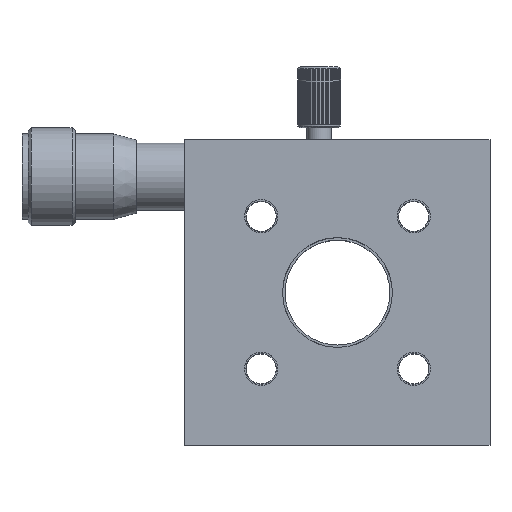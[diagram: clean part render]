
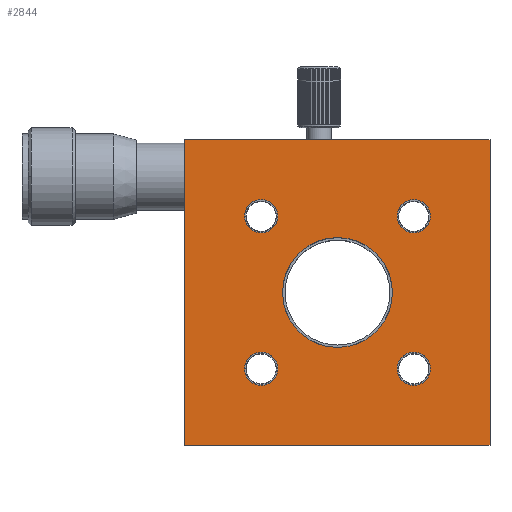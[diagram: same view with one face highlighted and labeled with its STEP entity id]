
A CAD part, top view. The second image highlights one B-rep face of the part: STEP entity #2844.
In plain terms, the highlighted planar face has unit normal (0, 0, 1).
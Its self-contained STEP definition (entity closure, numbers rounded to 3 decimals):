
#669 = VERTEX_POINT ( 'NONE', #6545 ) ;
#678 = EDGE_CURVE ( 'NONE', #737, #733, #6533, .T. ) ;
#726 = VERTEX_POINT ( 'NONE', #6691 ) ;
#729 = VERTEX_POINT ( 'NONE', #6681 ) ;
#731 = EDGE_CURVE ( 'NONE', #732, #729, #6680, .T. ) ;
#732 = VERTEX_POINT ( 'NONE', #6675 ) ;
#733 = VERTEX_POINT ( 'NONE', #6674 ) ;
#735 = EDGE_CURVE ( 'NONE', #736, #726, #6673, .T. ) ;
#736 = VERTEX_POINT ( 'NONE', #6668 ) ;
#737 = VERTEX_POINT ( 'NONE', #6667 ) ;
#738 = EDGE_CURVE ( 'NONE', #739, #669, #6726, .T. ) ;
#739 = VERTEX_POINT ( 'NONE', #6721 ) ;
#914 = EDGE_CURVE ( 'NONE', #915, #916, #7257, .T. ) ;
#915 = VERTEX_POINT ( 'NONE', #7252 ) ;
#916 = VERTEX_POINT ( 'NONE', #7251 ) ;
#2714 = EDGE_CURVE ( 'NONE', #916, #915, #10845, .T. ) ;
#2753 = EDGE_CURVE ( 'NONE', #729, #732, #10911, .T. ) ;
#2760 = EDGE_CURVE ( 'NONE', #733, #737, #10905, .T. ) ;
#2765 = EDGE_CURVE ( 'NONE', #669, #739, #10888, .T. ) ;
#2772 = EDGE_CURVE ( 'NONE', #726, #736, #10945, .T. ) ;
#2793 = VERTEX_POINT ( 'NONE', #10914 ) ;
#2795 = EDGE_CURVE ( 'NONE', #2808, #2793, #10913, .T. ) ;
#2808 = VERTEX_POINT ( 'NONE', #10965 ) ;
#2810 = EDGE_CURVE ( 'NONE', #2817, #2808, #10964, .T. ) ;
#2817 = VERTEX_POINT ( 'NONE', #10956 ) ;
#2819 = EDGE_CURVE ( 'NONE', #2820, #2817, #10955, .T. ) ;
#2820 = VERTEX_POINT ( 'NONE', #10951 ) ;
#2830 = EDGE_LOOP ( 'NONE', ( #2831, #2832 ) ) ;
#2831 = ORIENTED_EDGE ( 'NONE', *, *, #735, .T. ) ;
#2832 = ORIENTED_EDGE ( 'NONE', *, *, #2772, .T. ) ;
#2833 = EDGE_LOOP ( 'NONE', ( #2834, #2835 ) ) ;
#2834 = ORIENTED_EDGE ( 'NONE', *, *, #738, .T. ) ;
#2835 = ORIENTED_EDGE ( 'NONE', *, *, #2765, .T. ) ;
#2836 = EDGE_LOOP ( 'NONE', ( #2837, #2838 ) ) ;
#2837 = ORIENTED_EDGE ( 'NONE', *, *, #2714, .T. ) ;
#2838 = ORIENTED_EDGE ( 'NONE', *, *, #914, .T. ) ;
#2844 = ADVANCED_FACE ( 'NONE', ( #11006, #11005, #11004, #11003, #11002, #11001 ), #11000, .T. ) ;
#2845 = ORIENTED_EDGE ( 'NONE', *, *, #2795, .T. ) ;
#2846 = ORIENTED_EDGE ( 'NONE', *, *, #2859, .T. ) ;
#2847 = ORIENTED_EDGE ( 'NONE', *, *, #2819, .T. ) ;
#2848 = ORIENTED_EDGE ( 'NONE', *, *, #2810, .T. ) ;
#2849 = EDGE_LOOP ( 'NONE', ( #2850, #2851 ) ) ;
#2850 = ORIENTED_EDGE ( 'NONE', *, *, #678, .T. ) ;
#2851 = ORIENTED_EDGE ( 'NONE', *, *, #2760, .T. ) ;
#2852 = EDGE_LOOP ( 'NONE', ( #2853, #2854 ) ) ;
#2853 = ORIENTED_EDGE ( 'NONE', *, *, #731, .T. ) ;
#2854 = ORIENTED_EDGE ( 'NONE', *, *, #2753, .T. ) ;
#2859 = EDGE_CURVE ( 'NONE', #2793, #2820, #10988, .T. ) ;
#2865 = EDGE_LOOP ( 'NONE', ( #2845, #2846, #2847, #2848 ) ) ;
#6529 = DIRECTION ( 'NONE',  ( 1., 0., 0. ) ) ;
#6530 = DIRECTION ( 'NONE',  ( 0., 0., -1. ) ) ;
#6531 = CARTESIAN_POINT ( 'NONE',  ( 37.5, 37.5, 20.5 ) ) ;
#6532 = AXIS2_PLACEMENT_3D ( 'NONE', #6531, #6530, #6529 ) ;
#6533 = CIRCLE ( 'NONE', #6532, 2.73 ) ;
#6545 = CARTESIAN_POINT ( 'NONE',  ( 34.77, 12.5, 20.5 ) ) ;
#6667 = CARTESIAN_POINT ( 'NONE',  ( 40.23, 37.5, 20.5 ) ) ;
#6668 = CARTESIAN_POINT ( 'NONE',  ( 15.229, 37.5, 20.5 ) ) ;
#6669 = DIRECTION ( 'NONE',  ( 1., 0., 0. ) ) ;
#6670 = DIRECTION ( 'NONE',  ( 0., 0., -1. ) ) ;
#6671 = CARTESIAN_POINT ( 'NONE',  ( 12.5, 37.5, 20.5 ) ) ;
#6672 = AXIS2_PLACEMENT_3D ( 'NONE', #6671, #6670, #6669 ) ;
#6673 = CIRCLE ( 'NONE', #6672, 2.729 ) ;
#6674 = CARTESIAN_POINT ( 'NONE',  ( 34.77, 37.5, 20.5 ) ) ;
#6675 = CARTESIAN_POINT ( 'NONE',  ( 15.229, 12.5, 20.5 ) ) ;
#6676 = DIRECTION ( 'NONE',  ( 1., 0., 0. ) ) ;
#6677 = DIRECTION ( 'NONE',  ( 0., 0., -1. ) ) ;
#6678 = CARTESIAN_POINT ( 'NONE',  ( 12.5, 12.5, 20.5 ) ) ;
#6679 = AXIS2_PLACEMENT_3D ( 'NONE', #6678, #6677, #6676 ) ;
#6680 = CIRCLE ( 'NONE', #6679, 2.729 ) ;
#6681 = CARTESIAN_POINT ( 'NONE',  ( 9.771, 12.5, 20.5 ) ) ;
#6691 = CARTESIAN_POINT ( 'NONE',  ( 9.77, 37.5, 20.5 ) ) ;
#6721 = CARTESIAN_POINT ( 'NONE',  ( 40.23, 12.5, 20.5 ) ) ;
#6722 = DIRECTION ( 'NONE',  ( 1., 0., 0. ) ) ;
#6723 = DIRECTION ( 'NONE',  ( 0., 0., -1. ) ) ;
#6724 = CARTESIAN_POINT ( 'NONE',  ( 37.5, 12.5, 20.5 ) ) ;
#6725 = AXIS2_PLACEMENT_3D ( 'NONE', #6724, #6723, #6722 ) ;
#6726 = CIRCLE ( 'NONE', #6725, 2.73 ) ;
#7251 = CARTESIAN_POINT ( 'NONE',  ( 16., 25., 20.5 ) ) ;
#7252 = CARTESIAN_POINT ( 'NONE',  ( 34., 25., 20.5 ) ) ;
#7253 = DIRECTION ( 'NONE',  ( -1., 0., 0. ) ) ;
#7254 = DIRECTION ( 'NONE',  ( 0., 0., -1. ) ) ;
#7255 = CARTESIAN_POINT ( 'NONE',  ( 25., 25., 20.5 ) ) ;
#7256 = AXIS2_PLACEMENT_3D ( 'NONE', #7255, #7254, #7253 ) ;
#7257 = CIRCLE ( 'NONE', #7256, 9. ) ;
#10822 = DIRECTION ( 'NONE',  ( -1., 0., 0. ) ) ;
#10823 = DIRECTION ( 'NONE',  ( 0., 0., -1. ) ) ;
#10824 = CARTESIAN_POINT ( 'NONE',  ( 25., 25., 20.5 ) ) ;
#10825 = AXIS2_PLACEMENT_3D ( 'NONE', #10824, #10823, #10822 ) ;
#10845 = CIRCLE ( 'NONE', #10825, 9. ) ;
#10850 = CARTESIAN_POINT ( 'NONE',  ( 12.5, 12.5, 20.5 ) ) ;
#10884 = DIRECTION ( 'NONE',  ( 1., 0., 0. ) ) ;
#10885 = DIRECTION ( 'NONE',  ( 0., 0., -1. ) ) ;
#10886 = CARTESIAN_POINT ( 'NONE',  ( 37.5, 12.5, 20.5 ) ) ;
#10887 = AXIS2_PLACEMENT_3D ( 'NONE', #10886, #10885, #10884 ) ;
#10888 = CIRCLE ( 'NONE', #10887, 2.73 ) ;
#10897 = DIRECTION ( 'NONE',  ( 1., 0., 0. ) ) ;
#10898 = DIRECTION ( 'NONE',  ( 0., 0., -1. ) ) ;
#10899 = CARTESIAN_POINT ( 'NONE',  ( 37.5, 37.5, 20.5 ) ) ;
#10900 = AXIS2_PLACEMENT_3D ( 'NONE', #10899, #10898, #10897 ) ;
#10905 = CIRCLE ( 'NONE', #10900, 2.73 ) ;
#10908 = DIRECTION ( 'NONE',  ( 1., 0., 0. ) ) ;
#10909 = DIRECTION ( 'NONE',  ( 0., 0., -1. ) ) ;
#10910 = AXIS2_PLACEMENT_3D ( 'NONE', #10850, #10909, #10908 ) ;
#10911 = CIRCLE ( 'NONE', #10910, 2.729 ) ;
#10913 = LINE ( 'NONE', #10979, #10978 ) ;
#10914 = CARTESIAN_POINT ( 'NONE',  ( 50., 50., 20.5 ) ) ;
#10938 = DIRECTION ( 'NONE',  ( 1., 0., 0. ) ) ;
#10939 = DIRECTION ( 'NONE',  ( 0., 0., -1. ) ) ;
#10940 = CARTESIAN_POINT ( 'NONE',  ( 12.5, 37.5, 20.5 ) ) ;
#10941 = AXIS2_PLACEMENT_3D ( 'NONE', #10940, #10939, #10938 ) ;
#10945 = CIRCLE ( 'NONE', #10941, 2.729 ) ;
#10951 = CARTESIAN_POINT ( 'NONE',  ( 0., 50., 20.5 ) ) ;
#10952 = DIRECTION ( 'NONE',  ( 0., -1., 0. ) ) ;
#10953 = VECTOR ( 'NONE', #10952, 1000. ) ;
#10954 = CARTESIAN_POINT ( 'NONE',  ( 0., 25., 20.5 ) ) ;
#10955 = LINE ( 'NONE', #10954, #10953 ) ;
#10956 = CARTESIAN_POINT ( 'NONE',  ( 0., 0., 20.5 ) ) ;
#10961 = DIRECTION ( 'NONE',  ( 1., 0., 0. ) ) ;
#10962 = VECTOR ( 'NONE', #10961, 1000. ) ;
#10963 = CARTESIAN_POINT ( 'NONE',  ( 25., 0., 20.5 ) ) ;
#10964 = LINE ( 'NONE', #10963, #10962 ) ;
#10965 = CARTESIAN_POINT ( 'NONE',  ( 50., 0., 20.5 ) ) ;
#10977 = DIRECTION ( 'NONE',  ( 0., 1., 0. ) ) ;
#10978 = VECTOR ( 'NONE', #10977, 1000. ) ;
#10979 = CARTESIAN_POINT ( 'NONE',  ( 50., 25., 20.5 ) ) ;
#10985 = DIRECTION ( 'NONE',  ( -1., 0., 0. ) ) ;
#10986 = VECTOR ( 'NONE', #10985, 1000. ) ;
#10987 = CARTESIAN_POINT ( 'NONE',  ( 25., 50., 20.5 ) ) ;
#10988 = LINE ( 'NONE', #10987, #10986 ) ;
#10996 = DIRECTION ( 'NONE',  ( 1., 0., 0. ) ) ;
#10997 = DIRECTION ( 'NONE',  ( 0., 0., 1. ) ) ;
#10998 = CARTESIAN_POINT ( 'NONE',  ( 25., 25., 20.5 ) ) ;
#10999 = AXIS2_PLACEMENT_3D ( 'NONE', #10998, #10997, #10996 ) ;
#11000 = PLANE ( 'NONE',  #10999 ) ;
#11001 = FACE_BOUND ( 'NONE', #2836, .T. ) ;
#11002 = FACE_BOUND ( 'NONE', #2833, .T. ) ;
#11003 = FACE_BOUND ( 'NONE', #2830, .T. ) ;
#11004 = FACE_BOUND ( 'NONE', #2852, .T. ) ;
#11005 = FACE_BOUND ( 'NONE', #2849, .T. ) ;
#11006 = FACE_OUTER_BOUND ( 'NONE', #2865, .T. ) ;
